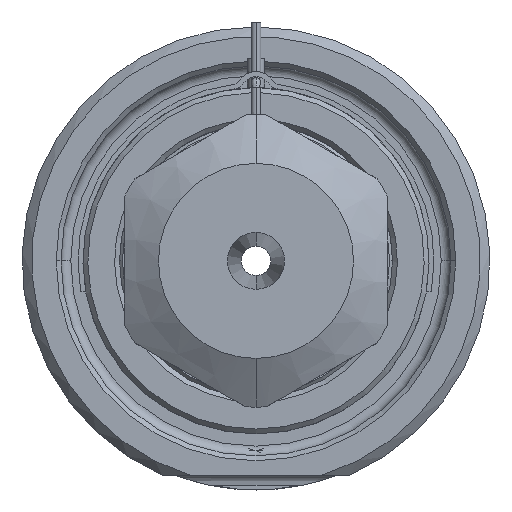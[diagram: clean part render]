
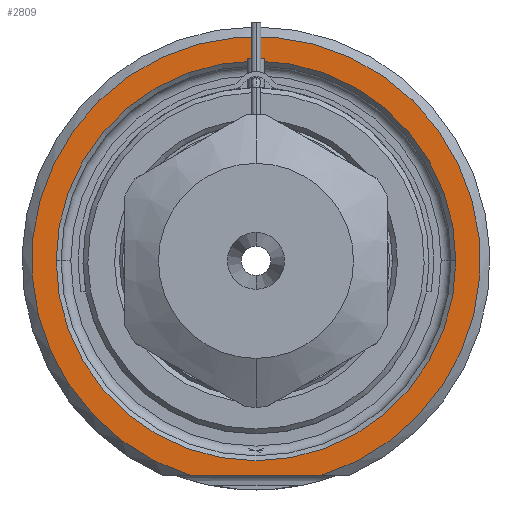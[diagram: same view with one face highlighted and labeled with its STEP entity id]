
A CAD part, front view. The second image highlights one B-rep face of the part: STEP entity #2809.
In plain terms, the highlighted planar face has unit normal (0, -1, 0).
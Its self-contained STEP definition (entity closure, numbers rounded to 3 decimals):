
#1=DIRECTION('',(1.,0.,0.));
#2=VECTOR('',#1,13.416);
#3=CARTESIAN_POINT('',(-6.708,0.,-22.));
#4=LINE('',#3,#2);
#5=CARTESIAN_POINT('',(0.,0.,0.));
#6=DIRECTION('',(0.,1.,0.));
#7=DIRECTION('',(-1.,0.,0.));
#8=AXIS2_PLACEMENT_3D('',#5,#6,#7);
#10=CARTESIAN_POINT('',(0.,0.,0.));
#11=DIRECTION('',(0.,1.,0.));
#12=DIRECTION('',(1.,0.,0.));
#13=AXIS2_PLACEMENT_3D('',#10,#11,#12);
#121=CARTESIAN_POINT('',(0.,0.,0.));
#122=DIRECTION('',(0.,-1.,0.));
#123=DIRECTION('',(0.292,0.,-0.957));
#124=AXIS2_PLACEMENT_3D('',#121,#122,#123);
#2335=CARTESIAN_POINT('',(-20.5,0.,0.));
#2336=CARTESIAN_POINT('',(20.5,0.,0.));
#2337=VERTEX_POINT('',#2335);
#2338=VERTEX_POINT('',#2336);
#2389=CARTESIAN_POINT('',(-6.708,0.,-22.));
#2390=CARTESIAN_POINT('',(6.708,0.,-22.));
#2391=VERTEX_POINT('',#2389);
#2392=VERTEX_POINT('',#2390);
#2792=CARTESIAN_POINT('',(0.,0.,0.));
#2793=DIRECTION('',(0.,-1.,0.));
#2794=DIRECTION('',(1.,0.,0.));
#2795=AXIS2_PLACEMENT_3D('',#2792,#2793,#2794);
#2796=PLANE('',#2795);
#2798=ORIENTED_EDGE('',*,*,#2797,.F.);
#2800=ORIENTED_EDGE('',*,*,#2799,.F.);
#2801=EDGE_LOOP('',(#2798,#2800));
#2802=FACE_OUTER_BOUND('',#2801,.F.);
#2804=ORIENTED_EDGE('',*,*,#2803,.F.);
#2806=ORIENTED_EDGE('',*,*,#2805,.F.);
#2807=EDGE_LOOP('',(#2804,#2806));
#2808=FACE_BOUND('',#2807,.F.);
#2809=ADVANCED_FACE('',(#2802,#2808),#2796,.T.);
#9=CIRCLE('',#8,20.5);
#14=CIRCLE('',#13,20.5);
#125=CIRCLE('',#124,23.);
#2797=EDGE_CURVE('',#2391,#2392,#4,.T.);
#2799=EDGE_CURVE('',#2392,#2391,#125,.T.);
#2803=EDGE_CURVE('',#2337,#2338,#9,.T.);
#2805=EDGE_CURVE('',#2338,#2337,#14,.T.);
